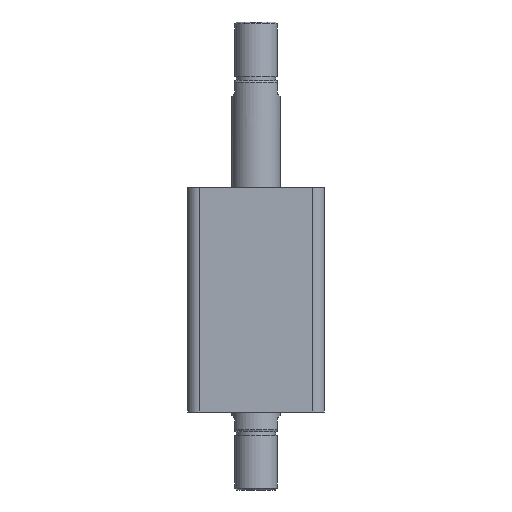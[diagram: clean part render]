
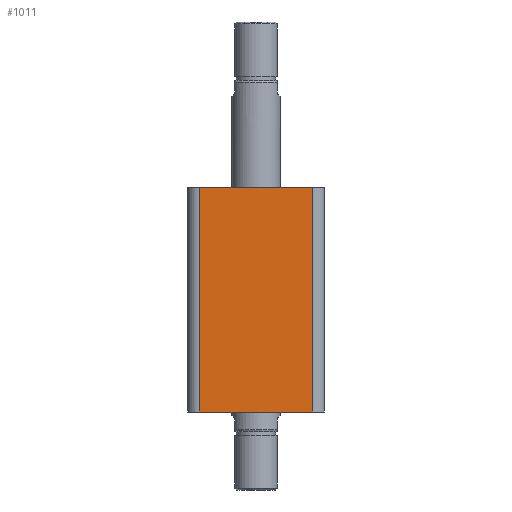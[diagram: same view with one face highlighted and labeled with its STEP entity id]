
A CAD part, front view. The second image highlights one B-rep face of the part: STEP entity #1011.
In plain terms, the highlighted planar face has unit normal (0, -1, 0).
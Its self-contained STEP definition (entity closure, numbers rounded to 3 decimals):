
#165 = CARTESIAN_POINT ( 'NONE',  ( -35., -35., 115. ) ) ;
#167 = PLANE ( 'NONE',  #2486 ) ;
#169 = DIRECTION ( 'NONE',  ( 0., 1., 0. ) ) ;
#170 = DIRECTION ( 'NONE',  ( 0., 0., 1. ) ) ;
#547 = CARTESIAN_POINT ( 'NONE',  ( 29., -35., 115. ) ) ;
#553 = CARTESIAN_POINT ( 'NONE',  ( -29., -35., 0. ) ) ;
#565 = CARTESIAN_POINT ( 'NONE',  ( 29., -35., 0. ) ) ;
#571 = CARTESIAN_POINT ( 'NONE',  ( -29., -35., 115. ) ) ;
#800 = FACE_OUTER_BOUND ( 'NONE', #1599, .T. ) ;
#983 = LINE ( 'NONE', #2338, #986 ) ;
#985 = LINE ( 'NONE', #2340, #987 ) ;
#986 = VECTOR ( 'NONE', #2339, 1000. ) ;
#987 = VECTOR ( 'NONE', #2341, 1000. ) ;
#1011 = ADVANCED_FACE ( 'NONE', ( #800 ), #167, .F. ) ;
#1599 = EDGE_LOOP ( 'NONE', ( #1834, #1835, #1836, #1837 ) ) ;
#1834 = ORIENTED_EDGE ( 'NONE', *, *, #2404, .F. ) ;
#1835 = ORIENTED_EDGE ( 'NONE', *, *, #2405, .T. ) ;
#1836 = ORIENTED_EDGE ( 'NONE', *, *, #2406, .T. ) ;
#1837 = ORIENTED_EDGE ( 'NONE', *, *, #2407, .T. ) ;
#1848 = LINE ( 'NONE', #2323, #1849 ) ;
#1849 = VECTOR ( 'NONE', #2342, 1000. ) ;
#1851 = LINE ( 'NONE', #2343, #1852 ) ;
#1852 = VECTOR ( 'NONE', #2344, 1000. ) ;
#2323 = CARTESIAN_POINT ( 'NONE',  ( -35., -35., 0. ) ) ;
#2338 = CARTESIAN_POINT ( 'NONE',  ( -35., -35., 115. ) ) ;
#2339 = DIRECTION ( 'NONE',  ( 1., 0., 0. ) ) ;
#2340 = CARTESIAN_POINT ( 'NONE',  ( -29., -35., 115. ) ) ;
#2341 = DIRECTION ( 'NONE',  ( 0., 0., -1. ) ) ;
#2342 = DIRECTION ( 'NONE',  ( 1., 0., 0. ) ) ;
#2343 = CARTESIAN_POINT ( 'NONE',  ( 29., -35., 115. ) ) ;
#2344 = DIRECTION ( 'NONE',  ( 0., 0., 1. ) ) ;
#2404 = EDGE_CURVE ( 'NONE', #3280, #3269, #983, .T. ) ;
#2405 = EDGE_CURVE ( 'NONE', #3280, #3270, #985, .T. ) ;
#2406 = EDGE_CURVE ( 'NONE', #3270, #3271, #1848, .T. ) ;
#2407 = EDGE_CURVE ( 'NONE', #3271, #3269, #1851, .T. ) ;
#2486 = AXIS2_PLACEMENT_3D ( 'NONE', #165, #169, #170 ) ;
#3269 = VERTEX_POINT ( 'NONE', #547 ) ;
#3270 = VERTEX_POINT ( 'NONE', #553 ) ;
#3271 = VERTEX_POINT ( 'NONE', #565 ) ;
#3280 = VERTEX_POINT ( 'NONE', #571 ) ;
